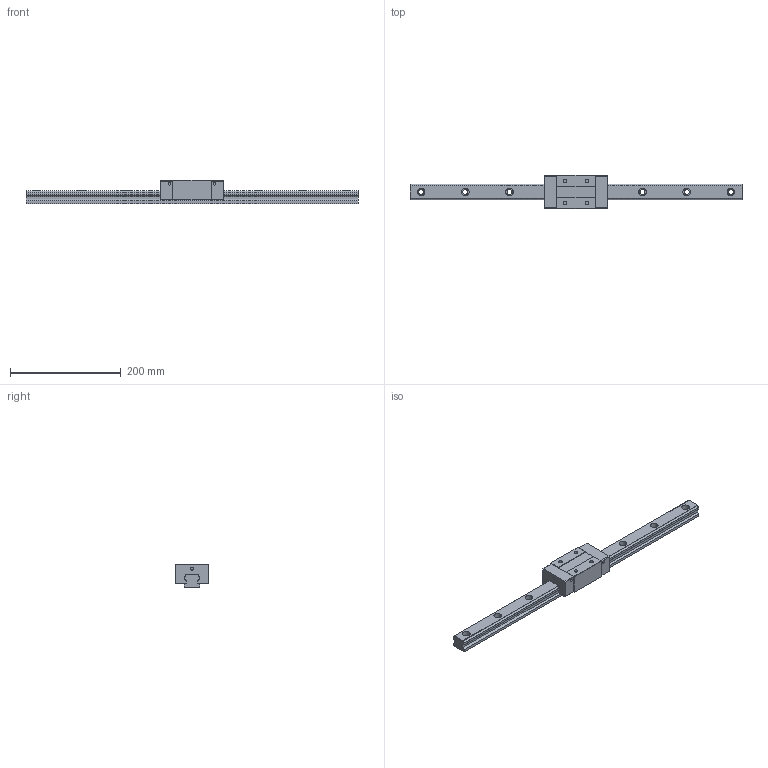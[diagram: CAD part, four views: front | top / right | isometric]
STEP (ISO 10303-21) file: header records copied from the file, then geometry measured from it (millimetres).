
FILE_DESCRIPTION (( 'STEP AP203' ), '1' );
FILE_NAME ('TRS30VN-DU.STEP', '2024-07-12T02:50:02', ( '' ), ( '' ), 'SwSTEP 2.0', 'SolidWorks 2022', '' );
FILE_SCHEMA (( 'CONFIG_CONTROL_DESIGN' ));
Length unit declared in the file: millimetre
Products named in the file (1): TRS30VN-DU
Bounding box: 600 x 60 x 42 mm (x, y, z)
Volume: 507952.7 mm3; surface area: 100107.3 mm2
Topology: 2 solids, 2 shells, 178 faces, 464 edges, 308 vertices
Faces by surface type: plane 90, cylinder 88
Entity records: 5619 total; most frequent: DIRECTION 998, CARTESIAN_POINT 951, ORIENTED_EDGE 928, EDGE_CURVE 464, AXIS2_PLACEMENT_3D 355, VERTEX_POINT 308, LINE 288, VECTOR 288
